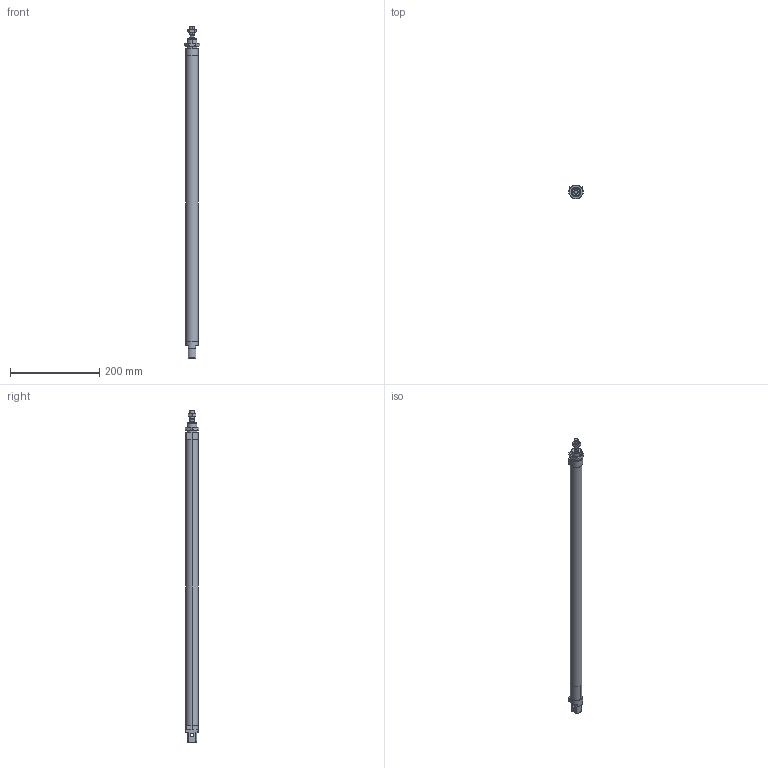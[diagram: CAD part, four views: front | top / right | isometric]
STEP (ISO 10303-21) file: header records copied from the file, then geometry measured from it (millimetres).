
FILE_DESCRIPTION((''),'2;1');
FILE_NAME('5226639190_ASM','2017-02-06T',('pug1hc'),(''),'PRO/ENGINEER BY PARAMETRIC TECHNOLOGY CORPORATION, 2012421','PRO/ENGINEER BY PARAMETRIC TECHNOLOGY CORPORATION, 2012421','');
FILE_SCHEMA(('CONFIG_CONTROL_DESIGN','SHAPE_APPEARANCE_LAYERS_GROUPS'));
Length unit declared in the file: millimetre
Products named in the file (5): 5226639190-A; 5226639190-B; 5226639190-C; 5226639190-D; 5226639190_ASM
Assembly tree (4 placements, depth 2):
  5226639190_ASM
    5226639190-A
    5226639190-B
    5226639190-C
    5226639190-D
Bounding box: 34.64 x 30 x 742 mm (x, y, z)
Volume: 165667.1 mm3; surface area: 143090.8 mm2
Topology: 4 solids, 4 shells, 126 faces, 286 edges, 178 vertices
Faces by surface type: plane 56, cylinder 34, cone 34, torus 2
Entity records: 4146 total; most frequent: CARTESIAN_POINT 1140, DIRECTION 630, ORIENTED_EDGE 572, EDGE_CURVE 286, AXIS2_PLACEMENT_3D 245, VERTEX_POINT 178, EDGE_LOOP 142, VECTOR 140
